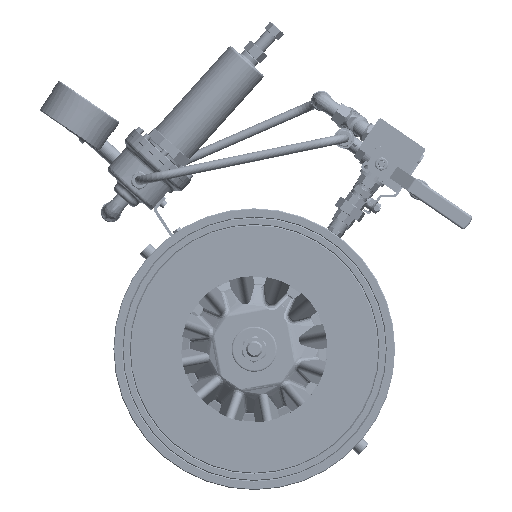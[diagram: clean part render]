
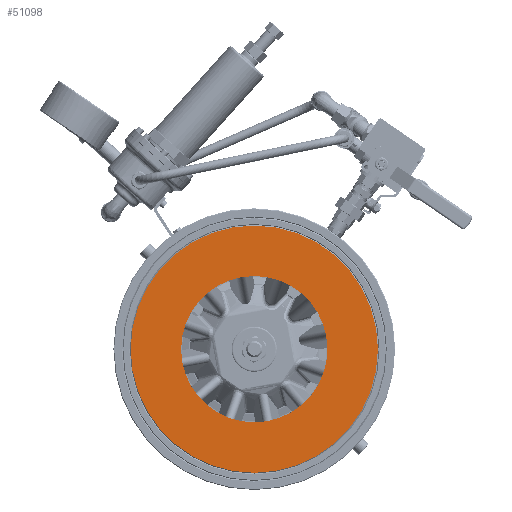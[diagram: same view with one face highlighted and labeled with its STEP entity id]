
A CAD part, front view. The second image highlights one B-rep face of the part: STEP entity #51098.
In plain terms, the highlighted planar face has unit normal (0, -1, 0).
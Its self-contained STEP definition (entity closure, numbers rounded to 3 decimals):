
#3108=FACE_BOUND('',#8076,.T.);
#3467=PLANE('',#54262);
#5025=FACE_OUTER_BOUND('',#8075,.T.);
#8075=EDGE_LOOP('',(#32508));
#8076=EDGE_LOOP('',(#32509));
#17924=CIRCLE('',#54255,169.);
#17928=CIRCLE('',#54263,100.);
#20158=VERTEX_POINT('',#73391);
#20162=VERTEX_POINT('',#73406);
#24915=EDGE_CURVE('',#20158,#20158,#17924,.T.);
#24921=EDGE_CURVE('',#20162,#20162,#17928,.T.);
#32508=ORIENTED_EDGE('',*,*,#24915,.T.);
#32509=ORIENTED_EDGE('',*,*,#24921,.T.);
#51098=ADVANCED_FACE('',(#5025,#3108),#3467,.F.);
#54255=AXIS2_PLACEMENT_3D('',#73393,#59622,#59623);
#54262=AXIS2_PLACEMENT_3D('',#73405,#59638,#59639);
#54263=AXIS2_PLACEMENT_3D('',#73407,#59640,#59641);
#59622=DIRECTION('center_axis',(0.,-1.,0.));
#59623=DIRECTION('ref_axis',(0.,0.,1.));
#59638=DIRECTION('center_axis',(0.,1.,0.));
#59639=DIRECTION('ref_axis',(-1.,0.,0.));
#59640=DIRECTION('center_axis',(0.,1.,0.));
#59641=DIRECTION('ref_axis',(-1.,0.,0.));
#73391=CARTESIAN_POINT('',(1934.36,371.522,24.243));
#73393=CARTESIAN_POINT('Origin',(1934.36,371.522,193.243));
#73405=CARTESIAN_POINT('Origin',(1934.36,371.522,193.243));
#73406=CARTESIAN_POINT('',(2034.36,371.522,193.243));
#73407=CARTESIAN_POINT('Origin',(1934.36,371.522,193.243));
